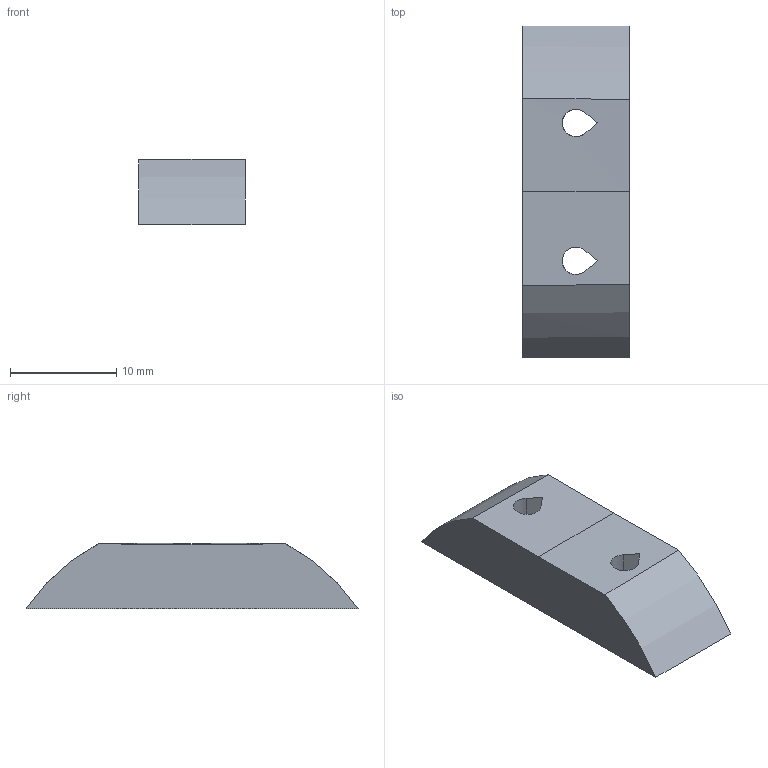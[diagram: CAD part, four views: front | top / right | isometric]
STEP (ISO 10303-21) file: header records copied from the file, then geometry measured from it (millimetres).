
FILE_DESCRIPTION(('SkyG Speed 90B - revision C6B-13 - 2026-10-11','NB2-wing-nut-bar-rear'),'2;1');
FILE_NAME('NB2-wing-nut-bar-rear_C6B-13','2026-10-11T17:52:53',('Author'),( 'Open CASCADE'),'Open CASCADE STEP processor 7.9','Open CASCADE 7.9' ,'Unknown');
FILE_SCHEMA(('AUTOMOTIVE_DESIGN { 1 0 10303 214 1 1 1 1 }'));
Length unit declared in the file: millimetre
Products named in the file (1): NB2-wing-nut-bar-rear C6B-13
Bounding box: 10 x 31.31 x 6.22 mm (x, y, z)
Volume: 1321.4 mm3; surface area: 1166.5 mm2
Topology: 1 solids, 1 shells, 27 faces, 71 edges, 48 vertices
Faces by surface type: plane 21, cylinder 4, bspline 2
Entity records: 3204 total; most frequent: CARTESIAN_POINT 1891, DIRECTION 191, ORIENTED_EDGE 142, PCURVE 142, DEFINITIONAL_REPRESENTATION 142, LINE 121, VECTOR 121, B_SPLINE_CURVE_WITH_KNOTS 80
